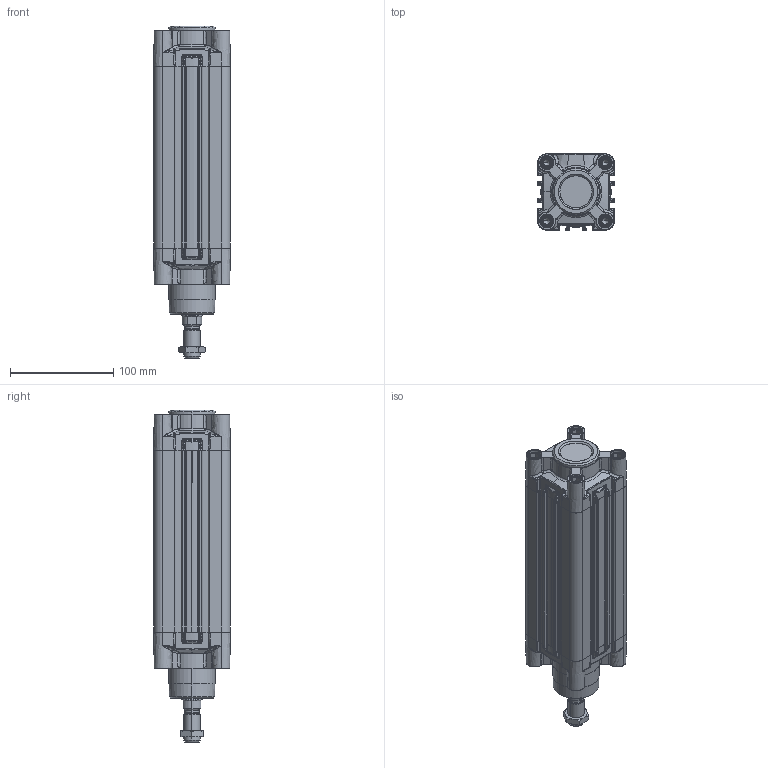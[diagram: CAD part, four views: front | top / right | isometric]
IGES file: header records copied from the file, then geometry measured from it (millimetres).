
Start section: SolidWorks IGES file using analytic representation for surfaces
Global section: file name: K:\Disegni Esecutivi\Cilindri\2_DISEGNI_cilindri_in_produzione\15_IGES cilindri per sito INTERNET-AIGNEP\iges ISO 15552\iges cilindro iso 15552\XB\XB063\XB0630100A.igs; native system: SolidWorks 2011; preprocessor: SolidWorks 2011; author: cad01; date: 110415.135639; units: millimetre
Bounding box: 73.98 x 73.98 x 321.5 mm (x, y, z)
Surface area: 215008.7 mm2 (no closed solid volume)
Topology: 0 solids, 0 shells, 1351 faces, 15117 edges, 15089 vertices
Faces by surface type: bspline 710, revolution 641
